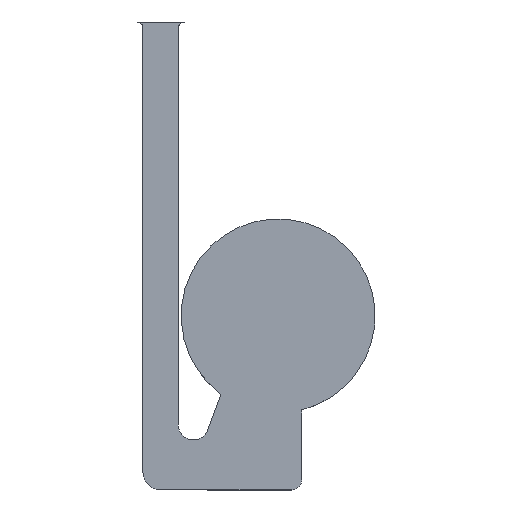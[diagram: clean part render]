
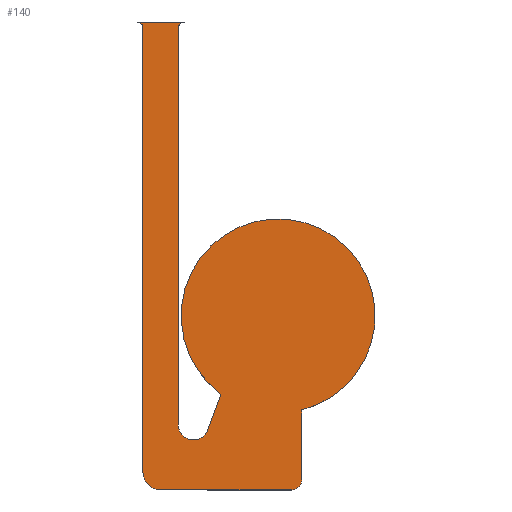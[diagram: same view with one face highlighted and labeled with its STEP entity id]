
A CAD part, top view. The second image highlights one B-rep face of the part: STEP entity #140.
In plain terms, the highlighted planar face has unit normal (0, 0, 1).
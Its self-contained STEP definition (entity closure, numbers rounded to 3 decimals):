
#140 = ADVANCED_FACE( '', ( #356 ), #357, .T. );
#356 = FACE_OUTER_BOUND( '', #672, .T. );
#357 = PLANE( '', #673 );
#672 = EDGE_LOOP( '', ( #1044, #1045, #1046, #1047, #1048, #1049, #1050, #1051, #1052, #1053, #1054, #1055 ) );
#673 = AXIS2_PLACEMENT_3D( '', #1056, #1057, #1058 );
#1044 = ORIENTED_EDGE( '', *, *, #1698, .F. );
#1045 = ORIENTED_EDGE( '', *, *, #1699, .T. );
#1046 = ORIENTED_EDGE( '', *, *, #1700, .F. );
#1047 = ORIENTED_EDGE( '', *, *, #1701, .T. );
#1048 = ORIENTED_EDGE( '', *, *, #1702, .F. );
#1049 = ORIENTED_EDGE( '', *, *, #1703, .T. );
#1050 = ORIENTED_EDGE( '', *, *, #1704, .T. );
#1051 = ORIENTED_EDGE( '', *, *, #1667, .F. );
#1052 = ORIENTED_EDGE( '', *, *, #1705, .T. );
#1053 = ORIENTED_EDGE( '', *, *, #1706, .F. );
#1054 = ORIENTED_EDGE( '', *, *, #1707, .F. );
#1055 = ORIENTED_EDGE( '', *, *, #1708, .F. );
#1056 = CARTESIAN_POINT( '', ( -250., -250., 0. ) );
#1057 = DIRECTION( '', ( 0., 0., 1. ) );
#1058 = DIRECTION( '', ( 0., -1., 0. ) );
#1667 = EDGE_CURVE( '', #1960, #1962, #1963, .F. );
#1698 = EDGE_CURVE( '', #2009, #2010, #2011, .F. );
#1699 = EDGE_CURVE( '', #2009, #2012, #2013, .T. );
#1700 = EDGE_CURVE( '', #2014, #2012, #2015, .F. );
#1701 = EDGE_CURVE( '', #2014, #2016, #2017, .F. );
#1702 = EDGE_CURVE( '', #2018, #2016, #2019, .T. );
#1703 = EDGE_CURVE( '', #2018, #2020, #2021, .T. );
#1704 = EDGE_CURVE( '', #2020, #1962, #2022, .F. );
#1705 = EDGE_CURVE( '', #1960, #2023, #2024, .F. );
#1706 = EDGE_CURVE( '', #2025, #2023, #2026, .F. );
#1707 = EDGE_CURVE( '', #2027, #2025, #2028, .F. );
#1708 = EDGE_CURVE( '', #2010, #2027, #2029, .T. );
#1960 = VERTEX_POINT( '', #2358 );
#1962 = VERTEX_POINT( '', #2361 );
#1963 = LINE( '', #2362, #2363 );
#2009 = VERTEX_POINT( '', #2417 );
#2010 = VERTEX_POINT( '', #2418 );
#2011 = CIRCLE( '', #2419, 5. );
#2012 = VERTEX_POINT( '', #2420 );
#2013 = LINE( '', #2421, #2422 );
#2014 = VERTEX_POINT( '', #2423 );
#2015 = CIRCLE( '', #2424, 5. );
#2016 = VERTEX_POINT( '', #2425 );
#2017 = LINE( '', #2426, #2427 );
#2018 = VERTEX_POINT( '', #2428 );
#2019 = CIRCLE( '', #2429, 15. );
#2020 = VERTEX_POINT( '', #2430 );
#2021 = LINE( '', #2431, #2432 );
#2022 = CIRCLE( '', #2433, 8.853 );
#2023 = VERTEX_POINT( '', #2434 );
#2024 = CIRCLE( '', #2435, 82.5 );
#2025 = VERTEX_POINT( '', #2436 );
#2026 = LINE( '', #2437, #2438 );
#2027 = VERTEX_POINT( '', #2439 );
#2028 = CIRCLE( '', #2440, 13. );
#2029 = LINE( '', #2441, #2442 );
#2358 = CARTESIAN_POINT( '', ( 20., -80.039, 0. ) );
#2361 = CARTESIAN_POINT( '', ( 20., -139.147, 0. ) );
#2362 = CARTESIAN_POINT( '', ( 20., -250., 0. ) );
#2363 = VECTOR( '', #2869, 1000. );
#2417 = CARTESIAN_POINT( '', ( -80., 250., 0. ) );
#2418 = CARTESIAN_POINT( '', ( -85., 245., 0. ) );
#2419 = AXIS2_PLACEMENT_3D( '', #2917, #2918, #2919 );
#2420 = CARTESIAN_POINT( '', ( -120., 250., 0. ) );
#2421 = CARTESIAN_POINT( '', ( 250., 250., 0. ) );
#2422 = VECTOR( '', #2920, 1000. );
#2423 = CARTESIAN_POINT( '', ( -115., 245., 0. ) );
#2424 = AXIS2_PLACEMENT_3D( '', #2921, #2922, #2923 );
#2425 = CARTESIAN_POINT( '', ( -115., -133., 0. ) );
#2426 = CARTESIAN_POINT( '', ( -115., 260., 0. ) );
#2427 = VECTOR( '', #2924, 1000. );
#2428 = CARTESIAN_POINT( '', ( -100., -148., 0. ) );
#2429 = AXIS2_PLACEMENT_3D( '', #2925, #2926, #2927 );
#2430 = CARTESIAN_POINT( '', ( 11.147, -148., 0. ) );
#2431 = CARTESIAN_POINT( '', ( -60.404, -148., 0. ) );
#2432 = VECTOR( '', #2928, 1000. );
#2433 = AXIS2_PLACEMENT_3D( '', #2929, #2930, #2931 );
#2434 = CARTESIAN_POINT( '', ( -48.711, -66.585, 0. ) );
#2435 = AXIS2_PLACEMENT_3D( '', #2932, #2933, #2934 );
#2436 = CARTESIAN_POINT( '', ( -59.784, -97.008, 0. ) );
#2437 = CARTESIAN_POINT( '', ( -66.868, -116.471, 0. ) );
#2438 = VECTOR( '', #2935, 1000. );
#2439 = CARTESIAN_POINT( '', ( -85., -92.561, 0. ) );
#2440 = AXIS2_PLACEMENT_3D( '', #2936, #2937, #2938 );
#2441 = CARTESIAN_POINT( '', ( -85., -250., 0. ) );
#2442 = VECTOR( '', #2939, 1000. );
#2869 = DIRECTION( '', ( 0., 1., 0. ) );
#2917 = CARTESIAN_POINT( '', ( -80., 245., 0. ) );
#2918 = DIRECTION( '', ( 0., 0., -1. ) );
#2919 = DIRECTION( '', ( -1., 0., 0. ) );
#2920 = DIRECTION( '', ( -1., 0., 0. ) );
#2921 = CARTESIAN_POINT( '', ( -120., 245., 0. ) );
#2922 = DIRECTION( '', ( 0., 0., -1. ) );
#2923 = DIRECTION( '', ( -1., 0., 0. ) );
#2924 = DIRECTION( '', ( 0., 1., 0. ) );
#2925 = CARTESIAN_POINT( '', ( -100., -133., 0. ) );
#2926 = DIRECTION( '', ( 0., 0., -1. ) );
#2927 = DIRECTION( '', ( -1., 0., 0. ) );
#2928 = DIRECTION( '', ( 1., 0., 0. ) );
#2929 = CARTESIAN_POINT( '', ( 11.147, -139.147, 0. ) );
#2930 = DIRECTION( '', ( 0., 0., -1. ) );
#2931 = DIRECTION( '', ( -1., 0., 0. ) );
#2932 = CARTESIAN_POINT( '', ( 0., 0., 0. ) );
#2933 = DIRECTION( '', ( 0., 0., -1. ) );
#2934 = DIRECTION( '', ( -1., 0., 0. ) );
#2935 = DIRECTION( '', ( -0.342, -0.94, 0. ) );
#2936 = CARTESIAN_POINT( '', ( -72., -92.561, 0. ) );
#2937 = DIRECTION( '', ( 0., 0., -1. ) );
#2938 = DIRECTION( '', ( -1., 0., 0. ) );
#2939 = DIRECTION( '', ( 0., -1., 0. ) );
